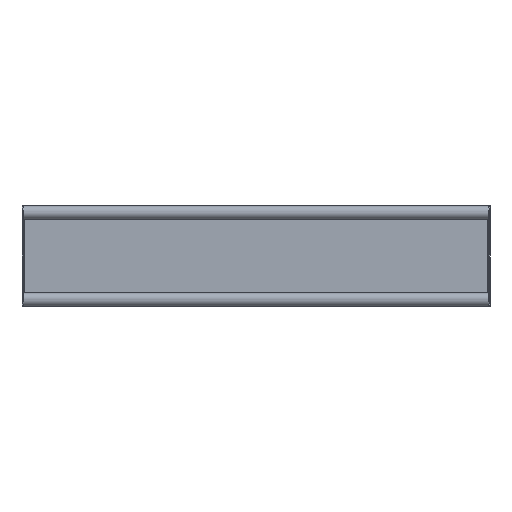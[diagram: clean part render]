
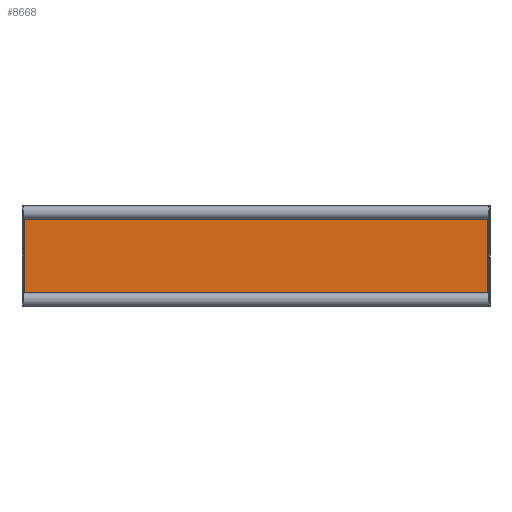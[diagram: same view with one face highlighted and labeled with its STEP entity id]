
A CAD part, front view. The second image highlights one B-rep face of the part: STEP entity #8668.
In plain terms, the highlighted planar face has unit normal (0, -1, 0).
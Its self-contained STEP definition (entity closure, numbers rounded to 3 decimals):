
#398 = DIRECTION ( 'NONE',  ( 0., -1., 0. ) ) ;
#452 = CARTESIAN_POINT ( 'NONE',  ( -345., -2., -71. ) ) ;
#528 = LINE ( 'NONE', #7339, #6850 ) ;
#617 = ORIENTED_EDGE ( 'NONE', *, *, #6003, .F. ) ;
#695 = FACE_OUTER_BOUND ( 'NONE', #6097, .T. ) ;
#738 = DIRECTION ( 'NONE',  ( 0., 0., 1. ) ) ;
#789 = AXIS2_PLACEMENT_3D ( 'NONE', #2330, #4683, #5375 ) ;
#799 = VERTEX_POINT ( 'NONE', #8288 ) ;
#959 = ORIENTED_EDGE ( 'NONE', *, *, #9510, .F. ) ;
#1072 = CARTESIAN_POINT ( 'NONE',  ( 346., -2., -74. ) ) ;
#1382 = CARTESIAN_POINT ( 'NONE',  ( -349., -2., 71. ) ) ;
#1468 = VERTEX_POINT ( 'NONE', #6328 ) ;
#1718 = EDGE_CURVE ( 'NONE', #2446, #3013, #7052, .T. ) ;
#1745 = VECTOR ( 'NONE', #738, 1000. ) ;
#1747 = DIRECTION ( 'NONE',  ( 0., 1., 0. ) ) ;
#1830 = VERTEX_POINT ( 'NONE', #3376 ) ;
#2230 = LINE ( 'NONE', #5429, #1745 ) ;
#2288 = DIRECTION ( 'NONE',  ( 0., 0., 1. ) ) ;
#2314 = CARTESIAN_POINT ( 'NONE',  ( -349., -2., 74. ) ) ;
#2330 = CARTESIAN_POINT ( 'NONE',  ( 349., -2., 74. ) ) ;
#2446 = VERTEX_POINT ( 'NONE', #5826 ) ;
#2756 = AXIS2_PLACEMENT_3D ( 'NONE', #9374, #398, #5061 ) ;
#2775 = VERTEX_POINT ( 'NONE', #452 ) ;
#2910 = CIRCLE ( 'NONE', #2756, 5. ) ;
#3013 = VERTEX_POINT ( 'NONE', #3864 ) ;
#3150 = ORIENTED_EDGE ( 'NONE', *, *, #8130, .F. ) ;
#3157 = CARTESIAN_POINT ( 'NONE',  ( -349., -2., -74. ) ) ;
#3230 = DIRECTION ( 'NONE',  ( 0., -1., 0. ) ) ;
#3247 = ORIENTED_EDGE ( 'NONE', *, *, #9568, .F. ) ;
#3376 = CARTESIAN_POINT ( 'NONE',  ( -345., -2., 71. ) ) ;
#3389 = CARTESIAN_POINT ( 'NONE',  ( -346., -2., -70. ) ) ;
#3498 = ORIENTED_EDGE ( 'NONE', *, *, #1718, .T. ) ;
#3579 = VERTEX_POINT ( 'NONE', #3389 ) ;
#3703 = EDGE_CURVE ( 'NONE', #2775, #7734, #528, .T. ) ;
#3864 = CARTESIAN_POINT ( 'NONE',  ( 346., -2., 70. ) ) ;
#3901 = AXIS2_PLACEMENT_3D ( 'NONE', #2314, #3230, #7046 ) ;
#4683 = DIRECTION ( 'NONE',  ( 0., -1., 0. ) ) ;
#4940 = CARTESIAN_POINT ( 'NONE',  ( 345., -2., -71. ) ) ;
#5061 = DIRECTION ( 'NONE',  ( 0., 0., 1. ) ) ;
#5375 = DIRECTION ( 'NONE',  ( 0., 0., 1. ) ) ;
#5417 = DIRECTION ( 'NONE',  ( 0., 0., 1. ) ) ;
#5429 = CARTESIAN_POINT ( 'NONE',  ( -346., -2., -74. ) ) ;
#5598 = AXIS2_PLACEMENT_3D ( 'NONE', #8594, #7010, #9278 ) ;
#5826 = CARTESIAN_POINT ( 'NONE',  ( 346., -2., -70. ) ) ;
#5934 = EDGE_CURVE ( 'NONE', #1468, #3013, #7100, .T. ) ;
#6003 = EDGE_CURVE ( 'NONE', #3579, #799, #2230, .T. ) ;
#6097 = EDGE_LOOP ( 'NONE', ( #959, #3498, #8802, #7718, #3150, #617, #3247, #9669 ) ) ;
#6328 = CARTESIAN_POINT ( 'NONE',  ( 345., -2., 71. ) ) ;
#6850 = VECTOR ( 'NONE', #9549, 1000. ) ;
#6976 = VECTOR ( 'NONE', #5417, 1000. ) ;
#7010 = DIRECTION ( 'NONE',  ( 0., -1., 0. ) ) ;
#7046 = DIRECTION ( 'NONE',  ( 0., 0., 1. ) ) ;
#7052 = LINE ( 'NONE', #1072, #6976 ) ;
#7100 = CIRCLE ( 'NONE', #789, 5. ) ;
#7339 = CARTESIAN_POINT ( 'NONE',  ( -349., -2., -71. ) ) ;
#7398 = AXIS2_PLACEMENT_3D ( 'NONE', #3157, #1747, #2288 ) ;
#7718 = ORIENTED_EDGE ( 'NONE', *, *, #9421, .F. ) ;
#7734 = VERTEX_POINT ( 'NONE', #4940 ) ;
#8125 = VECTOR ( 'NONE', #8291, 1000. ) ;
#8130 = EDGE_CURVE ( 'NONE', #799, #1830, #9127, .T. ) ;
#8196 = LINE ( 'NONE', #1382, #8125 ) ;
#8288 = CARTESIAN_POINT ( 'NONE',  ( -346., -2., 70. ) ) ;
#8291 = DIRECTION ( 'NONE',  ( 1., 0., 0. ) ) ;
#8594 = CARTESIAN_POINT ( 'NONE',  ( 349., -2., -74. ) ) ;
#8668 = ADVANCED_FACE ( 'NONE', ( #695 ), #8808, .F. ) ;
#8802 = ORIENTED_EDGE ( 'NONE', *, *, #5934, .F. ) ;
#8808 = PLANE ( 'NONE',  #7398 ) ;
#9127 = CIRCLE ( 'NONE', #3901, 5. ) ;
#9278 = DIRECTION ( 'NONE',  ( 0., 0., 1. ) ) ;
#9374 = CARTESIAN_POINT ( 'NONE',  ( -349., -2., -74. ) ) ;
#9388 = CIRCLE ( 'NONE', #5598, 5. ) ;
#9421 = EDGE_CURVE ( 'NONE', #1830, #1468, #8196, .T. ) ;
#9510 = EDGE_CURVE ( 'NONE', #2446, #7734, #9388, .T. ) ;
#9549 = DIRECTION ( 'NONE',  ( 1., 0., 0. ) ) ;
#9568 = EDGE_CURVE ( 'NONE', #2775, #3579, #2910, .T. ) ;
#9669 = ORIENTED_EDGE ( 'NONE', *, *, #3703, .T. ) ;
